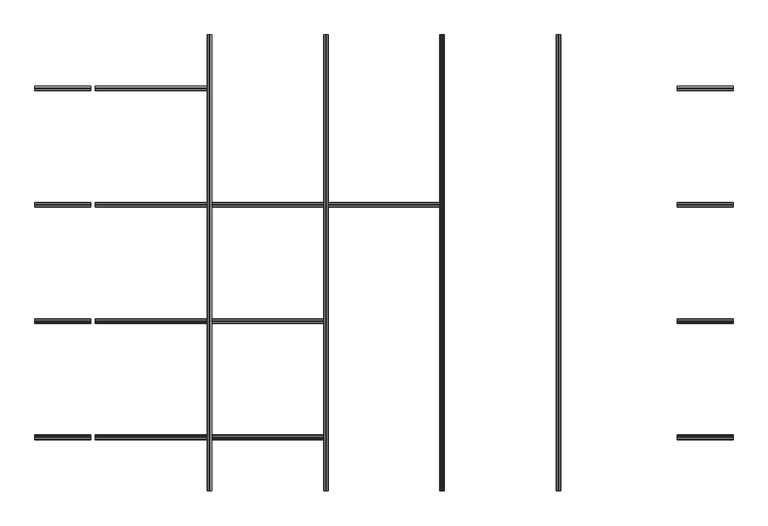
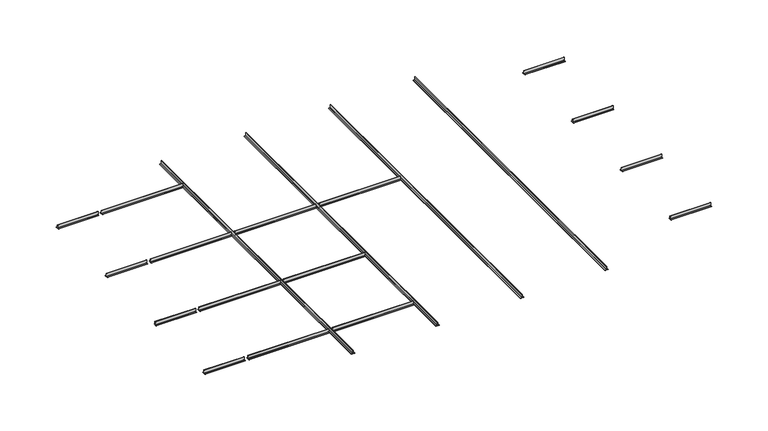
"""IFC4 building model written with IfcOpenShell, lengths in millimetres: proxy geometry, modelo_altus 2.3dm."""

from ifc_helpers import new_model, si_unit, point, frame, frame_2d, origin, place, context, project, spatial, polyline, circle_curve, trimmed, segment, composite_curve, outline, extrude, source, transform, mapped, element, save


def generic_models_bb0a471c(model_context):
    return source(origin(), model_context, "Body", "SweptSolid", [
        extrude(outline(composite_curve([segment(trimmed(circle_curve(frame_2d((1566.7183647, -37.5939559)), 0.8), [point((1566.7183647, -38.3939559))], [point((1565.9183647, -37.5939559))], False, "CARTESIAN"), True, "CONTINUOUS"), segment(polyline([(1565.9183647, -37.5939559), (1565.9183647, -37.1939559)]), True, "CONTINUOUS"), segment(trimmed(circle_curve(frame_2d((1566.7183647, -37.1939559)), 0.8), [point((1565.9183647, -37.1939559))], [point((1566.7183647, -36.3939559))], False, "CARTESIAN"), True, "CONTINUOUS"), segment(polyline([(1566.7183647, -36.3939559), (1576.1183647, -36.518508)]), True, "CONTINUOUS"), segment(trimmed(circle_curve(frame_2d((1576.1183647, -35.718508)), 0.8), [point((1576.1183647, -36.518508))], [point((1576.9183647, -35.718508))], True, "CARTESIAN"), True, "CONTINUOUS"), segment(polyline([(1576.9183647, -35.718508), (1576.8771782, -13.7939559)]), True, "CONTINUOUS"), segment(trimmed(circle_curve(frame_2d((1577.6771782, -13.7939559)), 0.8), [point((1576.8771782, -13.7939559))], [point((1577.6771782, -12.9939559))], False, "CARTESIAN"), True, "CONTINUOUS"), segment(polyline([(1577.6771782, -12.9939559), (1578.1183647, -12.9939559)]), True, "CONTINUOUS"), segment(trimmed(circle_curve(frame_2d((1578.1183647, -13.7939559)), 0.8), [point((1578.1183647, -12.9939559))], [point((1578.9183647, -13.7939559))], False, "CARTESIAN"), True, "CONTINUOUS"), segment(polyline([(1578.9183647, -13.7939559), (1578.9183647, -35.5939559)]), True, "CONTINUOUS"), segment(trimmed(circle_curve(frame_2d((1579.7183647, -35.5939559)), 0.8), [point((1578.9183647, -35.5939559))], [point((1579.7183647, -36.3939559))], True, "CARTESIAN"), True, "CONTINUOUS"), segment(polyline([(1579.7183647, -36.3939559), (1589.1183647, -36.4063657)]), True, "CONTINUOUS"), segment(trimmed(circle_curve(frame_2d((1589.1183647, -37.2063657)), 0.8), [point((1589.1183647, -36.4063657))], [point((1589.9183647, -37.2063657))], False, "CARTESIAN"), True, "CONTINUOUS"), segment(polyline([(1589.9183647, -37.2063657), (1589.9183647, -37.5939559)]), True, "CONTINUOUS"), segment(trimmed(circle_curve(frame_2d((1589.1183647, -37.5939559)), 0.8), [point((1589.9183647, -37.5939559))], [point((1589.1183647, -38.3939559))], False, "CARTESIAN"), True, "CONTINUOUS"), segment(polyline([(1589.1183647, -38.3939559), (1566.7183647, -38.3939559)]), True, "CONTINUOUS")], self_intersect=False)), frame((-16686.5374694, 0.0, 0.0), z_axis=(1.0, 0.0, 0.0), x_axis=(0.0, 1.0, 0.0)), (0.0, 0.0, 1.0), 293.0),
        extrude(outline(composite_curve([segment(trimmed(circle_curve(frame_2d((956.7183647, -37.5939559)), 0.8), [point((956.7183647, -38.3939559))], [point((955.9183647, -37.5939559))], False, "CARTESIAN"), True, "CONTINUOUS"), segment(polyline([(955.9183647, -37.5939559), (955.9183647, -37.1939559)]), True, "CONTINUOUS"), segment(trimmed(circle_curve(frame_2d((956.7183647, -37.1939559)), 0.8), [point((955.9183647, -37.1939559))], [point((956.7183647, -36.3939559))], False, "CARTESIAN"), True, "CONTINUOUS"), segment(polyline([(956.7183647, -36.3939559), (966.1183647, -36.518508)]), True, "CONTINUOUS"), segment(trimmed(circle_curve(frame_2d((966.1183647, -35.718508)), 0.8), [point((966.1183647, -36.518508))], [point((966.9183647, -35.718508))], True, "CARTESIAN"), True, "CONTINUOUS"), segment(polyline([(966.9183647, -35.718508), (966.8771782, -13.7939559)]), True, "CONTINUOUS"), segment(trimmed(circle_curve(frame_2d((967.6771782, -13.7939559)), 0.8), [point((966.8771782, -13.7939559))], [point((967.6771782, -12.9939559))], False, "CARTESIAN"), True, "CONTINUOUS"), segment(polyline([(967.6771782, -12.9939559), (968.1183647, -12.9939559)]), True, "CONTINUOUS"), segment(trimmed(circle_curve(frame_2d((968.1183647, -13.7939559)), 0.8), [point((968.1183647, -12.9939559))], [point((968.9183647, -13.7939559))], False, "CARTESIAN"), True, "CONTINUOUS"), segment(polyline([(968.9183647, -13.7939559), (968.9183647, -35.5939559)]), True, "CONTINUOUS"), segment(trimmed(circle_curve(frame_2d((969.7183647, -35.5939559)), 0.8), [point((968.9183647, -35.5939559))], [point((969.7183647, -36.3939559))], True, "CARTESIAN"), True, "CONTINUOUS"), segment(polyline([(969.7183647, -36.3939559), (979.1183647, -36.4063657)]), True, "CONTINUOUS"), segment(trimmed(circle_curve(frame_2d((979.1183647, -37.2063657)), 0.8), [point((979.1183647, -36.4063657))], [point((979.9183647, -37.2063657))], False, "CARTESIAN"), True, "CONTINUOUS"), segment(polyline([(979.9183647, -37.2063657), (979.9183647, -37.5939559)]), True, "CONTINUOUS"), segment(trimmed(circle_curve(frame_2d((979.1183647, -37.5939559)), 0.8), [point((979.9183647, -37.5939559))], [point((979.1183647, -38.3939559))], False, "CARTESIAN"), True, "CONTINUOUS"), segment(polyline([(979.1183647, -38.3939559), (956.7183647, -38.3939559)]), True, "CONTINUOUS")], self_intersect=False)), frame((-16686.5374694, 0.0, 0.0), z_axis=(1.0, 0.0, 0.0), x_axis=(0.0, 1.0, 0.0)), (0.0, 0.0, 1.0), 293.0),
        extrude(outline(composite_curve([segment(trimmed(circle_curve(frame_2d((346.7183647, -37.5939559)), 0.8), [point((346.7183647, -38.3939559))], [point((345.9183647, -37.5939559))], False, "CARTESIAN"), True, "CONTINUOUS"), segment(polyline([(345.9183647, -37.5939559), (345.9183647, -37.1939559)]), True, "CONTINUOUS"), segment(trimmed(circle_curve(frame_2d((346.7183647, -37.1939559)), 0.8), [point((345.9183647, -37.1939559))], [point((346.7183647, -36.3939559))], False, "CARTESIAN"), True, "CONTINUOUS"), segment(polyline([(346.7183647, -36.3939559), (356.1183647, -36.518508)]), True, "CONTINUOUS"), segment(trimmed(circle_curve(frame_2d((356.1183647, -35.718508)), 0.8), [point((356.1183647, -36.518508))], [point((356.9183647, -35.718508))], True, "CARTESIAN"), True, "CONTINUOUS"), segment(polyline([(356.9183647, -35.718508), (356.8771782, -13.7939559)]), True, "CONTINUOUS"), segment(trimmed(circle_curve(frame_2d((357.6771782, -13.7939559)), 0.8), [point((356.8771782, -13.7939559))], [point((357.6771782, -12.9939559))], False, "CARTESIAN"), True, "CONTINUOUS"), segment(polyline([(357.6771782, -12.9939559), (358.1183647, -12.9939559)]), True, "CONTINUOUS"), segment(trimmed(circle_curve(frame_2d((358.1183647, -13.7939559)), 0.8), [point((358.1183647, -12.9939559))], [point((358.9183647, -13.7939559))], False, "CARTESIAN"), True, "CONTINUOUS"), segment(polyline([(358.9183647, -13.7939559), (358.9183647, -35.5939559)]), True, "CONTINUOUS"), segment(trimmed(circle_curve(frame_2d((359.7183647, -35.5939559)), 0.8), [point((358.9183647, -35.5939559))], [point((359.7183647, -36.3939559))], True, "CARTESIAN"), True, "CONTINUOUS"), segment(polyline([(359.7183647, -36.3939559), (369.1183647, -36.4063657)]), True, "CONTINUOUS"), segment(trimmed(circle_curve(frame_2d((369.1183647, -37.2063657)), 0.8), [point((369.1183647, -36.4063657))], [point((369.9183647, -37.2063657))], False, "CARTESIAN"), True, "CONTINUOUS"), segment(polyline([(369.9183647, -37.2063657), (369.9183647, -37.5939559)]), True, "CONTINUOUS"), segment(trimmed(circle_curve(frame_2d((369.1183647, -37.5939559)), 0.8), [point((369.9183647, -37.5939559))], [point((369.1183647, -38.3939559))], False, "CARTESIAN"), True, "CONTINUOUS"), segment(polyline([(369.1183647, -38.3939559), (346.7183647, -38.3939559)]), True, "CONTINUOUS")], self_intersect=False)), frame((-16686.5374694, 0.0, 0.0), z_axis=(1.0, 0.0, 0.0), x_axis=(0.0, 1.0, 0.0)), (0.0, 0.0, 1.0), 293.0),
        extrude(outline(composite_curve([segment(trimmed(circle_curve(frame_2d((-263.2816353, -37.5939559)), 0.8), [point((-263.2816353, -38.3939559))], [point((-264.0816353, -37.5939559))], False, "CARTESIAN"), True, "CONTINUOUS"), segment(polyline([(-264.0816353, -37.5939559), (-264.0816353, -37.1939559)]), True, "CONTINUOUS"), segment(trimmed(circle_curve(frame_2d((-263.2816353, -37.1939559)), 0.8), [point((-264.0816353, -37.1939559))], [point((-263.2816353, -36.3939559))], False, "CARTESIAN"), True, "CONTINUOUS"), segment(polyline([(-263.2816353, -36.3939559), (-253.8816353, -36.518508)]), True, "CONTINUOUS"), segment(trimmed(circle_curve(frame_2d((-253.8816353, -35.718508)), 0.8), [point((-253.8816353, -36.518508))], [point((-253.0816353, -35.718508))], True, "CARTESIAN"), True, "CONTINUOUS"), segment(polyline([(-253.0816353, -35.718508), (-253.1228218, -13.7939559)]), True, "CONTINUOUS"), segment(trimmed(circle_curve(frame_2d((-252.3228218, -13.7939559)), 0.8), [point((-253.1228218, -13.7939559))], [point((-252.3228218, -12.9939559))], False, "CARTESIAN"), True, "CONTINUOUS"), segment(polyline([(-252.3228218, -12.9939559), (-251.8816353, -12.9939559)]), True, "CONTINUOUS"), segment(trimmed(circle_curve(frame_2d((-251.8816353, -13.7939559)), 0.8), [point((-251.8816353, -12.9939559))], [point((-251.0816353, -13.7939559))], False, "CARTESIAN"), True, "CONTINUOUS"), segment(polyline([(-251.0816353, -13.7939559), (-251.0816353, -35.5939559)]), True, "CONTINUOUS"), segment(trimmed(circle_curve(frame_2d((-250.2816353, -35.5939559)), 0.8), [point((-251.0816353, -35.5939559))], [point((-250.2816353, -36.3939559))], True, "CARTESIAN"), True, "CONTINUOUS"), segment(polyline([(-250.2816353, -36.3939559), (-240.8816353, -36.4063657)]), True, "CONTINUOUS"), segment(trimmed(circle_curve(frame_2d((-240.8816353, -37.2063657)), 0.8), [point((-240.8816353, -36.4063657))], [point((-240.0816353, -37.2063657))], False, "CARTESIAN"), True, "CONTINUOUS"), segment(polyline([(-240.0816353, -37.2063657), (-240.0816353, -37.5939559)]), True, "CONTINUOUS"), segment(trimmed(circle_curve(frame_2d((-240.8816353, -37.5939559)), 0.8), [point((-240.0816353, -37.5939559))], [point((-240.8816353, -38.3939559))], False, "CARTESIAN"), True, "CONTINUOUS"), segment(polyline([(-240.8816353, -38.3939559), (-263.2816353, -38.3939559)]), True, "CONTINUOUS")], self_intersect=False)), frame((-16686.5374694, 0.0, 0.0), z_axis=(1.0, 0.0, 0.0), x_axis=(0.0, 1.0, 0.0)), (0.0, 0.0, 1.0), 293.0),
        extrude(outline(composite_curve([segment(trimmed(circle_curve(frame_2d((1566.7183647, -37.5939559)), 0.8), [point((1566.7183647, -38.3939559))], [point((1565.9183647, -37.5939559))], False, "CARTESIAN"), True, "CONTINUOUS"), segment(polyline([(1565.9183647, -37.5939559), (1565.9183647, -37.1939559)]), True, "CONTINUOUS"), segment(trimmed(circle_curve(frame_2d((1566.7183647, -37.1939559)), 0.8), [point((1565.9183647, -37.1939559))], [point((1566.7183647, -36.3939559))], False, "CARTESIAN"), True, "CONTINUOUS"), segment(polyline([(1566.7183647, -36.3939559), (1576.1183647, -36.518508)]), True, "CONTINUOUS"), segment(trimmed(circle_curve(frame_2d((1576.1183647, -35.718508)), 0.8), [point((1576.1183647, -36.518508))], [point((1576.9183647, -35.718508))], True, "CARTESIAN"), True, "CONTINUOUS"), segment(polyline([(1576.9183647, -35.718508), (1576.8771782, -13.7939559)]), True, "CONTINUOUS"), segment(trimmed(circle_curve(frame_2d((1577.6771782, -13.7939559)), 0.8), [point((1576.8771782, -13.7939559))], [point((1577.6771782, -12.9939559))], False, "CARTESIAN"), True, "CONTINUOUS"), segment(polyline([(1577.6771782, -12.9939559), (1578.1183647, -12.9939559)]), True, "CONTINUOUS"), segment(trimmed(circle_curve(frame_2d((1578.1183647, -13.7939559)), 0.8), [point((1578.1183647, -12.9939559))], [point((1578.9183647, -13.7939559))], False, "CARTESIAN"), True, "CONTINUOUS"), segment(polyline([(1578.9183647, -13.7939559), (1578.9183647, -35.5939559)]), True, "CONTINUOUS"), segment(trimmed(circle_curve(frame_2d((1579.7183647, -35.5939559)), 0.8), [point((1578.9183647, -35.5939559))], [point((1579.7183647, -36.3939559))], True, "CARTESIAN"), True, "CONTINUOUS"), segment(polyline([(1579.7183647, -36.3939559), (1589.1183647, -36.4063657)]), True, "CONTINUOUS"), segment(trimmed(circle_curve(frame_2d((1589.1183647, -37.2063657)), 0.8), [point((1589.1183647, -36.4063657))], [point((1589.9183647, -37.2063657))], False, "CARTESIAN"), True, "CONTINUOUS"), segment(polyline([(1589.9183647, -37.2063657), (1589.9183647, -37.5939559)]), True, "CONTINUOUS"), segment(trimmed(circle_curve(frame_2d((1589.1183647, -37.5939559)), 0.8), [point((1589.9183647, -37.5939559))], [point((1589.1183647, -38.3939559))], False, "CARTESIAN"), True, "CONTINUOUS"), segment(polyline([(1589.1183647, -38.3939559), (1566.7183647, -38.3939559)]), True, "CONTINUOUS")], self_intersect=False)), frame((-13319.5786559, 0.0, 0.0), z_axis=(1.0, 0.0, 0.0), x_axis=(0.0, 1.0, 0.0)), (0.0, 0.0, 1.0), 293.0),
        extrude(outline(composite_curve([segment(trimmed(circle_curve(frame_2d((956.7183647, -37.5939559)), 0.8), [point((956.7183647, -38.3939559))], [point((955.9183647, -37.5939559))], False, "CARTESIAN"), True, "CONTINUOUS"), segment(polyline([(955.9183647, -37.5939559), (955.9183647, -37.1939559)]), True, "CONTINUOUS"), segment(trimmed(circle_curve(frame_2d((956.7183647, -37.1939559)), 0.8), [point((955.9183647, -37.1939559))], [point((956.7183647, -36.3939559))], False, "CARTESIAN"), True, "CONTINUOUS"), segment(polyline([(956.7183647, -36.3939559), (966.1183647, -36.518508)]), True, "CONTINUOUS"), segment(trimmed(circle_curve(frame_2d((966.1183647, -35.718508)), 0.8), [point((966.1183647, -36.518508))], [point((966.9183647, -35.718508))], True, "CARTESIAN"), True, "CONTINUOUS"), segment(polyline([(966.9183647, -35.718508), (966.8771782, -13.7939559)]), True, "CONTINUOUS"), segment(trimmed(circle_curve(frame_2d((967.6771782, -13.7939559)), 0.8), [point((966.8771782, -13.7939559))], [point((967.6771782, -12.9939559))], False, "CARTESIAN"), True, "CONTINUOUS"), segment(polyline([(967.6771782, -12.9939559), (968.1183647, -12.9939559)]), True, "CONTINUOUS"), segment(trimmed(circle_curve(frame_2d((968.1183647, -13.7939559)), 0.8), [point((968.1183647, -12.9939559))], [point((968.9183647, -13.7939559))], False, "CARTESIAN"), True, "CONTINUOUS"), segment(polyline([(968.9183647, -13.7939559), (968.9183647, -35.5939559)]), True, "CONTINUOUS"), segment(trimmed(circle_curve(frame_2d((969.7183647, -35.5939559)), 0.8), [point((968.9183647, -35.5939559))], [point((969.7183647, -36.3939559))], True, "CARTESIAN"), True, "CONTINUOUS"), segment(polyline([(969.7183647, -36.3939559), (979.1183647, -36.4063657)]), True, "CONTINUOUS"), segment(trimmed(circle_curve(frame_2d((979.1183647, -37.2063657)), 0.8), [point((979.1183647, -36.4063657))], [point((979.9183647, -37.2063657))], False, "CARTESIAN"), True, "CONTINUOUS"), segment(polyline([(979.9183647, -37.2063657), (979.9183647, -37.5939559)]), True, "CONTINUOUS"), segment(trimmed(circle_curve(frame_2d((979.1183647, -37.5939559)), 0.8), [point((979.9183647, -37.5939559))], [point((979.1183647, -38.3939559))], False, "CARTESIAN"), True, "CONTINUOUS"), segment(polyline([(979.1183647, -38.3939559), (956.7183647, -38.3939559)]), True, "CONTINUOUS")], self_intersect=False)), frame((-13319.5786559, 0.0, 0.0), z_axis=(1.0, 0.0, 0.0), x_axis=(0.0, 1.0, 0.0)), (0.0, 0.0, 1.0), 293.0),
        extrude(outline(composite_curve([segment(trimmed(circle_curve(frame_2d((346.7183647, -37.5939559)), 0.8), [point((346.7183647, -38.3939559))], [point((345.9183647, -37.5939559))], False, "CARTESIAN"), True, "CONTINUOUS"), segment(polyline([(345.9183647, -37.5939559), (345.9183647, -37.1939559)]), True, "CONTINUOUS"), segment(trimmed(circle_curve(frame_2d((346.7183647, -37.1939559)), 0.8), [point((345.9183647, -37.1939559))], [point((346.7183647, -36.3939559))], False, "CARTESIAN"), True, "CONTINUOUS"), segment(polyline([(346.7183647, -36.3939559), (356.1183647, -36.518508)]), True, "CONTINUOUS"), segment(trimmed(circle_curve(frame_2d((356.1183647, -35.718508)), 0.8), [point((356.1183647, -36.518508))], [point((356.9183647, -35.718508))], True, "CARTESIAN"), True, "CONTINUOUS"), segment(polyline([(356.9183647, -35.718508), (356.8771782, -13.7939559)]), True, "CONTINUOUS"), segment(trimmed(circle_curve(frame_2d((357.6771782, -13.7939559)), 0.8), [point((356.8771782, -13.7939559))], [point((357.6771782, -12.9939559))], False, "CARTESIAN"), True, "CONTINUOUS"), segment(polyline([(357.6771782, -12.9939559), (358.1183647, -12.9939559)]), True, "CONTINUOUS"), segment(trimmed(circle_curve(frame_2d((358.1183647, -13.7939559)), 0.8), [point((358.1183647, -12.9939559))], [point((358.9183647, -13.7939559))], False, "CARTESIAN"), True, "CONTINUOUS"), segment(polyline([(358.9183647, -13.7939559), (358.9183647, -35.5939559)]), True, "CONTINUOUS"), segment(trimmed(circle_curve(frame_2d((359.7183647, -35.5939559)), 0.8), [point((358.9183647, -35.5939559))], [point((359.7183647, -36.3939559))], True, "CARTESIAN"), True, "CONTINUOUS"), segment(polyline([(359.7183647, -36.3939559), (369.1183647, -36.4063657)]), True, "CONTINUOUS"), segment(trimmed(circle_curve(frame_2d((369.1183647, -37.2063657)), 0.8), [point((369.1183647, -36.4063657))], [point((369.9183647, -37.2063657))], False, "CARTESIAN"), True, "CONTINUOUS"), segment(polyline([(369.9183647, -37.2063657), (369.9183647, -37.5939559)]), True, "CONTINUOUS"), segment(trimmed(circle_curve(frame_2d((369.1183647, -37.5939559)), 0.8), [point((369.9183647, -37.5939559))], [point((369.1183647, -38.3939559))], False, "CARTESIAN"), True, "CONTINUOUS"), segment(polyline([(369.1183647, -38.3939559), (346.7183647, -38.3939559)]), True, "CONTINUOUS")], self_intersect=False)), frame((-13319.5786559, 0.0, 0.0), z_axis=(1.0, 0.0, 0.0), x_axis=(0.0, 1.0, 0.0)), (0.0, 0.0, 1.0), 293.0),
        extrude(outline(composite_curve([segment(trimmed(circle_curve(frame_2d((-263.2816353, -37.5939559)), 0.8), [point((-263.2816353, -38.3939559))], [point((-264.0816353, -37.5939559))], False, "CARTESIAN"), True, "CONTINUOUS"), segment(polyline([(-264.0816353, -37.5939559), (-264.0816353, -37.1939559)]), True, "CONTINUOUS"), segment(trimmed(circle_curve(frame_2d((-263.2816353, -37.1939559)), 0.8), [point((-264.0816353, -37.1939559))], [point((-263.2816353, -36.3939559))], False, "CARTESIAN"), True, "CONTINUOUS"), segment(polyline([(-263.2816353, -36.3939559), (-253.8816353, -36.518508)]), True, "CONTINUOUS"), segment(trimmed(circle_curve(frame_2d((-253.8816353, -35.718508)), 0.8), [point((-253.8816353, -36.518508))], [point((-253.0816353, -35.718508))], True, "CARTESIAN"), True, "CONTINUOUS"), segment(polyline([(-253.0816353, -35.718508), (-253.1228218, -13.7939559)]), True, "CONTINUOUS"), segment(trimmed(circle_curve(frame_2d((-252.3228218, -13.7939559)), 0.8), [point((-253.1228218, -13.7939559))], [point((-252.3228218, -12.9939559))], False, "CARTESIAN"), True, "CONTINUOUS"), segment(polyline([(-252.3228218, -12.9939559), (-251.8816353, -12.9939559)]), True, "CONTINUOUS"), segment(trimmed(circle_curve(frame_2d((-251.8816353, -13.7939559)), 0.8), [point((-251.8816353, -12.9939559))], [point((-251.0816353, -13.7939559))], False, "CARTESIAN"), True, "CONTINUOUS"), segment(polyline([(-251.0816353, -13.7939559), (-251.0816353, -35.5939559)]), True, "CONTINUOUS"), segment(trimmed(circle_curve(frame_2d((-250.2816353, -35.5939559)), 0.8), [point((-251.0816353, -35.5939559))], [point((-250.2816353, -36.3939559))], True, "CARTESIAN"), True, "CONTINUOUS"), segment(polyline([(-250.2816353, -36.3939559), (-240.8816353, -36.4063657)]), True, "CONTINUOUS"), segment(trimmed(circle_curve(frame_2d((-240.8816353, -37.2063657)), 0.8), [point((-240.8816353, -36.4063657))], [point((-240.0816353, -37.2063657))], False, "CARTESIAN"), True, "CONTINUOUS"), segment(polyline([(-240.0816353, -37.2063657), (-240.0816353, -37.5939559)]), True, "CONTINUOUS"), segment(trimmed(circle_curve(frame_2d((-240.8816353, -37.5939559)), 0.8), [point((-240.0816353, -37.5939559))], [point((-240.8816353, -38.3939559))], False, "CARTESIAN"), True, "CONTINUOUS"), segment(polyline([(-240.8816353, -38.3939559), (-263.2816353, -38.3939559)]), True, "CONTINUOUS")], self_intersect=False)), frame((-13319.5786559, 0.0, 0.0), z_axis=(1.0, 0.0, 0.0), x_axis=(0.0, 1.0, 0.0)), (0.0, 0.0, 1.0), 293.0),
        extrude(outline(composite_curve([segment(trimmed(circle_curve(frame_2d((-37.5843423, -13930.3786559)), 0.8), [point((-38.3843423, -13930.3786559))], [point((-37.5843423, -13929.5786559))], False, "CARTESIAN"), True, "CONTINUOUS"), segment(polyline([(-37.5843423, -13929.5786559), (-37.1843423, -13929.5786559)]), True, "CONTINUOUS"), segment(trimmed(circle_curve(frame_2d((-37.1843423, -13930.3786559)), 0.8), [point((-37.1843423, -13929.5786559))], [point((-36.3843423, -13930.3786559))], False, "CARTESIAN"), True, "CONTINUOUS"), segment(polyline([(-36.3843423, -13930.3786559), (-36.5088944, -13939.7786559)]), True, "CONTINUOUS"), segment(trimmed(circle_curve(frame_2d((-35.7088944, -13939.7786559)), 0.8), [point((-36.5088944, -13939.7786559))], [point((-35.7088944, -13940.5786559))], True, "CARTESIAN"), True, "CONTINUOUS"), segment(polyline([(-35.7088944, -13940.5786559), (-13.7843423, -13940.5374694)]), True, "CONTINUOUS"), segment(trimmed(circle_curve(frame_2d((-13.7843423, -13941.3374694)), 0.8), [point((-13.7843423, -13940.5374694))], [point((-12.9843423, -13941.3374694))], False, "CARTESIAN"), True, "CONTINUOUS"), segment(polyline([(-12.9843423, -13941.3374694), (-12.9843423, -13941.7786559)]), True, "CONTINUOUS"), segment(trimmed(circle_curve(frame_2d((-13.7843423, -13941.7786559)), 0.8), [point((-12.9843423, -13941.7786559))], [point((-13.7843423, -13942.5786559))], False, "CARTESIAN"), True, "CONTINUOUS"), segment(polyline([(-13.7843423, -13942.5786559), (-35.5843423, -13942.5786559)]), True, "CONTINUOUS"), segment(trimmed(circle_curve(frame_2d((-35.5843423, -13943.3786559)), 0.8), [point((-35.5843423, -13942.5786559))], [point((-36.3843423, -13943.3786559))], True, "CARTESIAN"), True, "CONTINUOUS"), segment(polyline([(-36.3843423, -13943.3786559), (-36.3967521, -13952.7786559)]), True, "CONTINUOUS"), segment(trimmed(circle_curve(frame_2d((-37.1967521, -13952.7786559)), 0.8), [point((-36.3967521, -13952.7786559))], [point((-37.1967521, -13953.5786559))], False, "CARTESIAN"), True, "CONTINUOUS"), segment(polyline([(-37.1967521, -13953.5786559), (-37.5843423, -13953.5786559)]), True, "CONTINUOUS"), segment(trimmed(circle_curve(frame_2d((-37.5843423, -13952.7786559)), 0.8), [point((-37.5843423, -13953.5786559))], [point((-38.3843423, -13952.7786559))], False, "CARTESIAN"), True, "CONTINUOUS"), segment(polyline([(-38.3843423, -13952.7786559), (-38.3843423, -13930.3786559)]), True, "CONTINUOUS")], self_intersect=False)), frame((0.0, -533.7057324, 0.0), z_axis=(0.0, 1.0, 0.0), x_axis=(0.0, 0.0, 1.0)), (0.0, 0.0, 1.0), 2393.2481942),
        extrude(outline(composite_curve([segment(trimmed(circle_curve(frame_2d((-263.2816353, -37.5843423)), 0.8), [point((-263.2816353, -38.3843423))], [point((-264.0816353, -37.5843423))], False, "CARTESIAN"), True, "CONTINUOUS"), segment(polyline([(-264.0816353, -37.5843423), (-264.0816353, -37.1843423)]), True, "CONTINUOUS"), segment(trimmed(circle_curve(frame_2d((-263.2816353, -37.1843423)), 0.8), [point((-264.0816353, -37.1843423))], [point((-263.2816353, -36.3843423))], False, "CARTESIAN"), True, "CONTINUOUS"), segment(polyline([(-263.2816353, -36.3843423), (-253.8816353, -36.5088944)]), True, "CONTINUOUS"), segment(trimmed(circle_curve(frame_2d((-253.8816353, -35.7088944)), 0.8), [point((-253.8816353, -36.5088944))], [point((-253.0816353, -35.7088944))], True, "CARTESIAN"), True, "CONTINUOUS"), segment(polyline([(-253.0816353, -35.7088944), (-253.1228217, -13.7843423)]), True, "CONTINUOUS"), segment(trimmed(circle_curve(frame_2d((-252.3228217, -13.7843423)), 0.8), [point((-253.1228217, -13.7843423))], [point((-252.3228217, -12.9843423))], False, "CARTESIAN"), True, "CONTINUOUS"), segment(polyline([(-252.3228217, -12.9843423), (-251.8816353, -12.9843423)]), True, "CONTINUOUS"), segment(trimmed(circle_curve(frame_2d((-251.8816353, -13.7843423)), 0.8), [point((-251.8816353, -12.9843423))], [point((-251.0816353, -13.7843423))], False, "CARTESIAN"), True, "CONTINUOUS"), segment(polyline([(-251.0816353, -13.7843423), (-251.0816353, -35.5843423)]), True, "CONTINUOUS"), segment(trimmed(circle_curve(frame_2d((-250.2816353, -35.5843423)), 0.8), [point((-251.0816353, -35.5843423))], [point((-250.2816353, -36.3843423))], True, "CARTESIAN"), True, "CONTINUOUS"), segment(polyline([(-250.2816353, -36.3843423), (-240.8816353, -36.3967521)]), True, "CONTINUOUS"), segment(trimmed(circle_curve(frame_2d((-240.8816353, -37.1967521)), 0.8), [point((-240.8816353, -36.3967521))], [point((-240.0816353, -37.1967521))], False, "CARTESIAN"), True, "CONTINUOUS"), segment(polyline([(-240.0816353, -37.1967521), (-240.0816353, -37.5843423)]), True, "CONTINUOUS"), segment(trimmed(circle_curve(frame_2d((-240.8816353, -37.5843423)), 0.8), [point((-240.0816353, -37.5843423))], [point((-240.8816353, -38.3843423))], False, "CARTESIAN"), True, "CONTINUOUS"), segment(polyline([(-240.8816353, -38.3843423), (-263.2816353, -38.3843423)]), True, "CONTINUOUS")], self_intersect=False)), frame((-16369.5374694, 0.0, 0.0), z_axis=(1.0, 0.0, 0.0), x_axis=(0.0, 1.0, 0.0)), (0.0, 0.0, 1.0), 586.0),
        extrude(outline(composite_curve([segment(trimmed(circle_curve(frame_2d((346.7183647, -37.5843423)), 0.8), [point((346.7183647, -38.3843423))], [point((345.9183647, -37.5843423))], False, "CARTESIAN"), True, "CONTINUOUS"), segment(polyline([(345.9183647, -37.5843423), (345.9183647, -37.1843423)]), True, "CONTINUOUS"), segment(trimmed(circle_curve(frame_2d((346.7183647, -37.1843423)), 0.8), [point((345.9183647, -37.1843423))], [point((346.7183647, -36.3843423))], False, "CARTESIAN"), True, "CONTINUOUS"), segment(polyline([(346.7183647, -36.3843423), (356.1183647, -36.5088944)]), True, "CONTINUOUS"), segment(trimmed(circle_curve(frame_2d((356.1183647, -35.7088944)), 0.8), [point((356.1183647, -36.5088944))], [point((356.9183647, -35.7088944))], True, "CARTESIAN"), True, "CONTINUOUS"), segment(polyline([(356.9183647, -35.7088944), (356.8771783, -13.7843423)]), True, "CONTINUOUS"), segment(trimmed(circle_curve(frame_2d((357.6771783, -13.7843423)), 0.8), [point((356.8771783, -13.7843423))], [point((357.6771783, -12.9843423))], False, "CARTESIAN"), True, "CONTINUOUS"), segment(polyline([(357.6771783, -12.9843423), (358.1183647, -12.9843423)]), True, "CONTINUOUS"), segment(trimmed(circle_curve(frame_2d((358.1183647, -13.7843423)), 0.8), [point((358.1183647, -12.9843423))], [point((358.9183647, -13.7843423))], False, "CARTESIAN"), True, "CONTINUOUS"), segment(polyline([(358.9183647, -13.7843423), (358.9183647, -35.5843423)]), True, "CONTINUOUS"), segment(trimmed(circle_curve(frame_2d((359.7183647, -35.5843423)), 0.8), [point((358.9183647, -35.5843423))], [point((359.7183647, -36.3843423))], True, "CARTESIAN"), True, "CONTINUOUS"), segment(polyline([(359.7183647, -36.3843423), (369.1183647, -36.3967521)]), True, "CONTINUOUS"), segment(trimmed(circle_curve(frame_2d((369.1183647, -37.1967521)), 0.8), [point((369.1183647, -36.3967521))], [point((369.9183647, -37.1967521))], False, "CARTESIAN"), True, "CONTINUOUS"), segment(polyline([(369.9183647, -37.1967521), (369.9183647, -37.5843423)]), True, "CONTINUOUS"), segment(trimmed(circle_curve(frame_2d((369.1183647, -37.5843423)), 0.8), [point((369.9183647, -37.5843423))], [point((369.1183647, -38.3843423))], False, "CARTESIAN"), True, "CONTINUOUS"), segment(polyline([(369.1183647, -38.3843423), (346.7183647, -38.3843423)]), True, "CONTINUOUS")], self_intersect=False)), frame((-16369.5374694, 0.0, 0.0), z_axis=(1.0, 0.0, 0.0), x_axis=(0.0, 1.0, 0.0)), (0.0, 0.0, 1.0), 586.0),
        extrude(outline(composite_curve([segment(trimmed(circle_curve(frame_2d((956.7183647, -37.5843423)), 0.8), [point((956.7183647, -38.3843423))], [point((955.9183647, -37.5843423))], False, "CARTESIAN"), True, "CONTINUOUS"), segment(polyline([(955.9183647, -37.5843423), (955.9183647, -37.1843423)]), True, "CONTINUOUS"), segment(trimmed(circle_curve(frame_2d((956.7183647, -37.1843423)), 0.8), [point((955.9183647, -37.1843423))], [point((956.7183647, -36.3843423))], False, "CARTESIAN"), True, "CONTINUOUS"), segment(polyline([(956.7183647, -36.3843423), (966.1183647, -36.5088944)]), True, "CONTINUOUS"), segment(trimmed(circle_curve(frame_2d((966.1183647, -35.7088944)), 0.8), [point((966.1183647, -36.5088944))], [point((966.9183647, -35.7088944))], True, "CARTESIAN"), True, "CONTINUOUS"), segment(polyline([(966.9183647, -35.7088944), (966.8771783, -13.7843423)]), True, "CONTINUOUS"), segment(trimmed(circle_curve(frame_2d((967.6771783, -13.7843423)), 0.8), [point((966.8771783, -13.7843423))], [point((967.6771783, -12.9843423))], False, "CARTESIAN"), True, "CONTINUOUS"), segment(polyline([(967.6771783, -12.9843423), (968.1183647, -12.9843423)]), True, "CONTINUOUS"), segment(trimmed(circle_curve(frame_2d((968.1183647, -13.7843423)), 0.8), [point((968.1183647, -12.9843423))], [point((968.9183647, -13.7843423))], False, "CARTESIAN"), True, "CONTINUOUS"), segment(polyline([(968.9183647, -13.7843423), (968.9183647, -35.5843423)]), True, "CONTINUOUS"), segment(trimmed(circle_curve(frame_2d((969.7183647, -35.5843423)), 0.8), [point((968.9183647, -35.5843423))], [point((969.7183647, -36.3843423))], True, "CARTESIAN"), True, "CONTINUOUS"), segment(polyline([(969.7183647, -36.3843423), (979.1183647, -36.3967521)]), True, "CONTINUOUS"), segment(trimmed(circle_curve(frame_2d((979.1183647, -37.1967521)), 0.8), [point((979.1183647, -36.3967521))], [point((979.9183647, -37.1967521))], False, "CARTESIAN"), True, "CONTINUOUS"), segment(polyline([(979.9183647, -37.1967521), (979.9183647, -37.5843423)]), True, "CONTINUOUS"), segment(trimmed(circle_curve(frame_2d((979.1183647, -37.5843423)), 0.8), [point((979.9183647, -37.5843423))], [point((979.1183647, -38.3843423))], False, "CARTESIAN"), True, "CONTINUOUS"), segment(polyline([(979.1183647, -38.3843423), (956.7183647, -38.3843423)]), True, "CONTINUOUS")], self_intersect=False)), frame((-16369.5374694, 0.0, 0.0), z_axis=(1.0, 0.0, 0.0), x_axis=(0.0, 1.0, 0.0)), (0.0, 0.0, 1.0), 586.0),
        extrude(outline(composite_curve([segment(trimmed(circle_curve(frame_2d((1566.7183647, -37.5843423)), 0.8), [point((1566.7183647, -38.3843423))], [point((1565.9183647, -37.5843423))], False, "CARTESIAN"), True, "CONTINUOUS"), segment(polyline([(1565.9183647, -37.5843423), (1565.9183647, -37.1843423)]), True, "CONTINUOUS"), segment(trimmed(circle_curve(frame_2d((1566.7183647, -37.1843423)), 0.8), [point((1565.9183647, -37.1843423))], [point((1566.7183647, -36.3843423))], False, "CARTESIAN"), True, "CONTINUOUS"), segment(polyline([(1566.7183647, -36.3843423), (1576.1183647, -36.5088944)]), True, "CONTINUOUS"), segment(trimmed(circle_curve(frame_2d((1576.1183647, -35.7088944)), 0.8), [point((1576.1183647, -36.5088944))], [point((1576.9183647, -35.7088944))], True, "CARTESIAN"), True, "CONTINUOUS"), segment(polyline([(1576.9183647, -35.7088944), (1576.8771783, -13.7843423)]), True, "CONTINUOUS"), segment(trimmed(circle_curve(frame_2d((1577.6771783, -13.7843423)), 0.8), [point((1576.8771783, -13.7843423))], [point((1577.6771783, -12.9843423))], False, "CARTESIAN"), True, "CONTINUOUS"), segment(polyline([(1577.6771783, -12.9843423), (1578.1183647, -12.9843423)]), True, "CONTINUOUS"), segment(trimmed(circle_curve(frame_2d((1578.1183647, -13.7843423)), 0.8), [point((1578.1183647, -12.9843423))], [point((1578.9183647, -13.7843423))], False, "CARTESIAN"), True, "CONTINUOUS"), segment(polyline([(1578.9183647, -13.7843423), (1578.9183647, -35.5843423)]), True, "CONTINUOUS"), segment(trimmed(circle_curve(frame_2d((1579.7183647, -35.5843423)), 0.8), [point((1578.9183647, -35.5843423))], [point((1579.7183647, -36.3843423))], True, "CARTESIAN"), True, "CONTINUOUS"), segment(polyline([(1579.7183647, -36.3843423), (1589.1183647, -36.3967521)]), True, "CONTINUOUS"), segment(trimmed(circle_curve(frame_2d((1589.1183647, -37.1967521)), 0.8), [point((1589.1183647, -36.3967521))], [point((1589.9183647, -37.1967521))], False, "CARTESIAN"), True, "CONTINUOUS"), segment(polyline([(1589.9183647, -37.1967521), (1589.9183647, -37.5843423)]), True, "CONTINUOUS"), segment(trimmed(circle_curve(frame_2d((1589.1183647, -37.5843423)), 0.8), [point((1589.9183647, -37.5843423))], [point((1589.1183647, -38.3843423))], False, "CARTESIAN"), True, "CONTINUOUS"), segment(polyline([(1589.1183647, -38.3843423), (1566.7183647, -38.3843423)]), True, "CONTINUOUS")], self_intersect=False)), frame((-16369.5374694, 0.0, 0.0), z_axis=(1.0, 0.0, 0.0), x_axis=(0.0, 1.0, 0.0)), (0.0, 0.0, 1.0), 586.0),
        extrude(outline(composite_curve([segment(trimmed(circle_curve(frame_2d((-37.5843423, -15760.3786559)), 0.8), [point((-38.3843423, -15760.3786559))], [point((-37.5843423, -15759.5786559))], False, "CARTESIAN"), True, "CONTINUOUS"), segment(polyline([(-37.5843423, -15759.5786559), (-37.1843423, -15759.5786559)]), True, "CONTINUOUS"), segment(trimmed(circle_curve(frame_2d((-37.1843423, -15760.3786559)), 0.8), [point((-37.1843423, -15759.5786559))], [point((-36.3843423, -15760.3786559))], False, "CARTESIAN"), True, "CONTINUOUS"), segment(polyline([(-36.3843423, -15760.3786559), (-36.5088944, -15769.7786559)]), True, "CONTINUOUS"), segment(trimmed(circle_curve(frame_2d((-35.7088944, -15769.7786559)), 0.8), [point((-36.5088944, -15769.7786559))], [point((-35.7088944, -15770.5786559))], True, "CARTESIAN"), True, "CONTINUOUS"), segment(polyline([(-35.7088944, -15770.5786559), (-13.7843423, -15770.5374694)]), True, "CONTINUOUS"), segment(trimmed(circle_curve(frame_2d((-13.7843423, -15771.3374694)), 0.8), [point((-13.7843423, -15770.5374694))], [point((-12.9843423, -15771.3374694))], False, "CARTESIAN"), True, "CONTINUOUS"), segment(polyline([(-12.9843423, -15771.3374694), (-12.9843423, -15771.7786559)]), True, "CONTINUOUS"), segment(trimmed(circle_curve(frame_2d((-13.7843423, -15771.7786559)), 0.8), [point((-12.9843423, -15771.7786559))], [point((-13.7843423, -15772.5786559))], False, "CARTESIAN"), True, "CONTINUOUS"), segment(polyline([(-13.7843423, -15772.5786559), (-35.5843423, -15772.5786559)]), True, "CONTINUOUS"), segment(trimmed(circle_curve(frame_2d((-35.5843423, -15773.3786559)), 0.8), [point((-35.5843423, -15772.5786559))], [point((-36.3843423, -15773.3786559))], True, "CARTESIAN"), True, "CONTINUOUS"), segment(polyline([(-36.3843423, -15773.3786559), (-36.3967521, -15782.7786559)]), True, "CONTINUOUS"), segment(trimmed(circle_curve(frame_2d((-37.1967521, -15782.7786559)), 0.8), [point((-36.3967521, -15782.7786559))], [point((-37.1967521, -15783.5786559))], False, "CARTESIAN"), True, "CONTINUOUS"), segment(polyline([(-37.1967521, -15783.5786559), (-37.5843423, -15783.5786559)]), True, "CONTINUOUS"), segment(trimmed(circle_curve(frame_2d((-37.5843423, -15782.7786559)), 0.8), [point((-37.5843423, -15783.5786559))], [point((-38.3843423, -15782.7786559))], False, "CARTESIAN"), True, "CONTINUOUS"), segment(polyline([(-38.3843423, -15782.7786559), (-38.3843423, -15760.3786559)]), True, "CONTINUOUS")], self_intersect=False)), frame((0.0, -533.7057324, 0.0), z_axis=(0.0, 1.0, 0.0), x_axis=(0.0, 0.0, 1.0)), (0.0, 0.0, 1.0), 2393.2481942),
        extrude(outline(composite_curve([segment(polyline([(0.0, 0.0), (0.0, 22.4)]), True, "CONTINUOUS"), segment(trimmed(circle_curve(frame_2d((0.8, 22.4)), 0.8), [point((0.0, 22.4))], [point((0.8, 23.2))], False, "CARTESIAN"), True, "CONTINUOUS"), segment(polyline([(0.8, 23.2), (1.1875902, 23.2)]), True, "CONTINUOUS"), segment(trimmed(circle_curve(frame_2d((1.1875902, 22.4)), 0.8), [point((1.1875902, 23.2))], [point((1.9875902, 22.4))], False, "CARTESIAN"), True, "CONTINUOUS"), segment(polyline([(1.9875902, 22.4), (2.0, 13.0)]), True, "CONTINUOUS"), segment(trimmed(circle_curve(frame_2d((2.8, 13.0)), 0.8), [point((2.0, 13.0))], [point((2.8, 12.2))], True, "CARTESIAN"), True, "CONTINUOUS"), segment(polyline([(2.8, 12.2), (24.6, 12.2)]), True, "CONTINUOUS"), segment(trimmed(circle_curve(frame_2d((24.6, 11.4)), 0.8), [point((24.6, 12.2))], [point((25.4, 11.4))], False, "CARTESIAN"), True, "CONTINUOUS"), segment(polyline([(25.4, 11.4), (25.4, 10.9588135)]), True, "CONTINUOUS"), segment(trimmed(circle_curve(frame_2d((24.6, 10.9588135)), 0.8), [point((25.4, 10.9588135))], [point((24.6, 10.1588135))], False, "CARTESIAN"), True, "CONTINUOUS"), segment(polyline([(24.6, 10.1588135), (2.675448, 10.2)]), True, "CONTINUOUS"), segment(trimmed(circle_curve(frame_2d((2.675448, 9.4)), 0.8), [point((2.675448, 10.2))], [point((1.875448, 9.4))], True, "CARTESIAN"), True, "CONTINUOUS"), segment(polyline([(1.875448, 9.4), (2.0, 0.0)]), True, "CONTINUOUS"), segment(trimmed(circle_curve(frame_2d((1.2, 0.0)), 0.8), [point((2.0, 0.0))], [point((1.2, -0.8))], False, "CARTESIAN"), True, "CONTINUOUS"), segment(polyline([(1.2, -0.8), (0.8, -0.8)]), True, "CONTINUOUS"), segment(trimmed(circle_curve(frame_2d((0.8, 0.0)), 0.8), [point((0.8, -0.8))], [point((0.0, 0.0))], False, "CARTESIAN"), True, "CONTINUOUS")], self_intersect=False)), frame((-15150.3786559, 1859.5424582, -38.3879518), z_axis=(0.0, -0.9999999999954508, 3.0163753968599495e-06), x_axis=(0.0, 3.0163753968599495e-06, 0.9999999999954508)), (0.0, 0.0, 1.0), 2393.2481777),
        extrude(outline(composite_curve([segment(polyline([(0.0, 0.0), (0.0, 22.4)]), True, "CONTINUOUS"), segment(trimmed(circle_curve(frame_2d((0.8, 22.4)), 0.8), [point((0.0, 22.4))], [point((0.8, 23.2))], False, "CARTESIAN"), True, "CONTINUOUS"), segment(polyline([(0.8, 23.2), (1.1875902, 23.2)]), True, "CONTINUOUS"), segment(trimmed(circle_curve(frame_2d((1.1875902, 22.4)), 0.8), [point((1.1875902, 23.2))], [point((1.9875902, 22.4))], False, "CARTESIAN"), True, "CONTINUOUS"), segment(polyline([(1.9875902, 22.4), (2.0, 13.0)]), True, "CONTINUOUS"), segment(trimmed(circle_curve(frame_2d((2.8, 13.0)), 0.8), [point((2.0, 13.0))], [point((2.8, 12.2))], True, "CARTESIAN"), True, "CONTINUOUS"), segment(polyline([(2.8, 12.2), (24.6, 12.2)]), True, "CONTINUOUS"), segment(trimmed(circle_curve(frame_2d((24.6, 11.4)), 0.8), [point((24.6, 12.2))], [point((25.4, 11.4))], False, "CARTESIAN"), True, "CONTINUOUS"), segment(polyline([(25.4, 11.4), (25.4, 10.9588135)]), True, "CONTINUOUS"), segment(trimmed(circle_curve(frame_2d((24.6, 10.9588135)), 0.8), [point((25.4, 10.9588135))], [point((24.6, 10.1588135))], False, "CARTESIAN"), True, "CONTINUOUS"), segment(polyline([(24.6, 10.1588135), (2.675448, 10.2)]), True, "CONTINUOUS"), segment(trimmed(circle_curve(frame_2d((2.675448, 9.4)), 0.8), [point((2.675448, 10.2))], [point((1.875448, 9.4))], True, "CARTESIAN"), True, "CONTINUOUS"), segment(polyline([(1.875448, 9.4), (2.0, 0.0)]), True, "CONTINUOUS"), segment(trimmed(circle_curve(frame_2d((1.2, 0.0)), 0.8), [point((2.0, 0.0))], [point((1.2, -0.8))], False, "CARTESIAN"), True, "CONTINUOUS"), segment(polyline([(1.2, -0.8), (0.8, -0.8)]), True, "CONTINUOUS"), segment(trimmed(circle_curve(frame_2d((0.8, 0.0)), 0.8), [point((0.8, -0.8))], [point((0.0, 0.0))], False, "CARTESIAN"), True, "CONTINUOUS")], self_intersect=False)), frame((-14540.3786559, 1859.5424582, -38.3879518), z_axis=(0.0, -0.9999999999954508, 3.0163753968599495e-06), x_axis=(0.0, 3.0163753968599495e-06, 0.9999999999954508)), (0.0, 0.0, 1.0), 2393.2481777),
        extrude(outline(composite_curve([segment(trimmed(circle_curve(frame_2d((956.7183647, -37.5843423)), 0.8), [point((956.7183647, -38.3843423))], [point((955.9183647, -37.5843423))], False, "CARTESIAN"), True, "CONTINUOUS"), segment(polyline([(955.9183647, -37.5843423), (955.9183647, -37.1843423)]), True, "CONTINUOUS"), segment(trimmed(circle_curve(frame_2d((956.7183647, -37.1843423)), 0.8), [point((955.9183647, -37.1843423))], [point((956.7183647, -36.3843423))], False, "CARTESIAN"), True, "CONTINUOUS"), segment(polyline([(956.7183647, -36.3843423), (966.1183647, -36.5088944)]), True, "CONTINUOUS"), segment(trimmed(circle_curve(frame_2d((966.1183647, -35.7088944)), 0.8), [point((966.1183647, -36.5088944))], [point((966.9183647, -35.7088944))], True, "CARTESIAN"), True, "CONTINUOUS"), segment(polyline([(966.9183647, -35.7088944), (966.8771783, -13.7843423)]), True, "CONTINUOUS"), segment(trimmed(circle_curve(frame_2d((967.6771783, -13.7843423)), 0.8), [point((966.8771783, -13.7843423))], [point((967.6771783, -12.9843423))], False, "CARTESIAN"), True, "CONTINUOUS"), segment(polyline([(967.6771783, -12.9843423), (968.1183647, -12.9843423)]), True, "CONTINUOUS"), segment(trimmed(circle_curve(frame_2d((968.1183647, -13.7843423)), 0.8), [point((968.1183647, -12.9843423))], [point((968.9183647, -13.7843423))], False, "CARTESIAN"), True, "CONTINUOUS"), segment(polyline([(968.9183647, -13.7843423), (968.9183647, -35.5843423)]), True, "CONTINUOUS"), segment(trimmed(circle_curve(frame_2d((969.7183647, -35.5843423)), 0.8), [point((968.9183647, -35.5843423))], [point((969.7183647, -36.3843423))], True, "CARTESIAN"), True, "CONTINUOUS"), segment(polyline([(969.7183647, -36.3843423), (979.1183647, -36.3967521)]), True, "CONTINUOUS"), segment(trimmed(circle_curve(frame_2d((979.1183647, -37.1967521)), 0.8), [point((979.1183647, -36.3967521))], [point((979.9183647, -37.1967521))], False, "CARTESIAN"), True, "CONTINUOUS"), segment(polyline([(979.9183647, -37.1967521), (979.9183647, -37.5843423)]), True, "CONTINUOUS"), segment(trimmed(circle_curve(frame_2d((979.1183647, -37.5843423)), 0.8), [point((979.9183647, -37.5843423))], [point((979.1183647, -38.3843423))], False, "CARTESIAN"), True, "CONTINUOUS"), segment(polyline([(979.1183647, -38.3843423), (956.7183647, -38.3843423)]), True, "CONTINUOUS")], self_intersect=False)), frame((-15149.5786559, 0.0, 0.0), z_axis=(1.0, 0.0, 0.0), x_axis=(0.0, 1.0, 0.0)), (0.0, 0.0, 1.0), 586.0),
        extrude(outline(composite_curve([segment(trimmed(circle_curve(frame_2d((-263.2816353, -37.5843423)), 0.8), [point((-263.2816353, -38.3843423))], [point((-264.0816353, -37.5843423))], False, "CARTESIAN"), True, "CONTINUOUS"), segment(polyline([(-264.0816353, -37.5843423), (-264.0816353, -37.1843423)]), True, "CONTINUOUS"), segment(trimmed(circle_curve(frame_2d((-263.2816353, -37.1843423)), 0.8), [point((-264.0816353, -37.1843423))], [point((-263.2816353, -36.3843423))], False, "CARTESIAN"), True, "CONTINUOUS"), segment(polyline([(-263.2816353, -36.3843423), (-253.8816353, -36.5088944)]), True, "CONTINUOUS"), segment(trimmed(circle_curve(frame_2d((-253.8816353, -35.7088944)), 0.8), [point((-253.8816353, -36.5088944))], [point((-253.0816353, -35.7088944))], True, "CARTESIAN"), True, "CONTINUOUS"), segment(polyline([(-253.0816353, -35.7088944), (-253.1228217, -13.7843423)]), True, "CONTINUOUS"), segment(trimmed(circle_curve(frame_2d((-252.3228217, -13.7843423)), 0.8), [point((-253.1228217, -13.7843423))], [point((-252.3228217, -12.9843423))], False, "CARTESIAN"), True, "CONTINUOUS"), segment(polyline([(-252.3228217, -12.9843423), (-251.8816353, -12.9843423)]), True, "CONTINUOUS"), segment(trimmed(circle_curve(frame_2d((-251.8816353, -13.7843423)), 0.8), [point((-251.8816353, -12.9843423))], [point((-251.0816353, -13.7843423))], False, "CARTESIAN"), True, "CONTINUOUS"), segment(polyline([(-251.0816353, -13.7843423), (-251.0816353, -35.5843423)]), True, "CONTINUOUS"), segment(trimmed(circle_curve(frame_2d((-250.2816353, -35.5843423)), 0.8), [point((-251.0816353, -35.5843423))], [point((-250.2816353, -36.3843423))], True, "CARTESIAN"), True, "CONTINUOUS"), segment(polyline([(-250.2816353, -36.3843423), (-240.8816353, -36.3967521)]), True, "CONTINUOUS"), segment(trimmed(circle_curve(frame_2d((-240.8816353, -37.1967521)), 0.8), [point((-240.8816353, -36.3967521))], [point((-240.0816353, -37.1967521))], False, "CARTESIAN"), True, "CONTINUOUS"), segment(polyline([(-240.0816353, -37.1967521), (-240.0816353, -37.5843423)]), True, "CONTINUOUS"), segment(trimmed(circle_curve(frame_2d((-240.8816353, -37.5843423)), 0.8), [point((-240.0816353, -37.5843423))], [point((-240.8816353, -38.3843423))], False, "CARTESIAN"), True, "CONTINUOUS"), segment(polyline([(-240.8816353, -38.3843423), (-263.2816353, -38.3843423)]), True, "CONTINUOUS")], self_intersect=False)), frame((-15759.5786559, 0.0, 0.0), z_axis=(1.0, 0.0, 0.0), x_axis=(0.0, 1.0, 0.0)), (0.0, 0.0, 1.0), 586.0),
        extrude(outline(composite_curve([segment(trimmed(circle_curve(frame_2d((346.7183647, -37.5843423)), 0.8), [point((346.7183647, -38.3843423))], [point((345.9183647, -37.5843423))], False, "CARTESIAN"), True, "CONTINUOUS"), segment(polyline([(345.9183647, -37.5843423), (345.9183647, -37.1843423)]), True, "CONTINUOUS"), segment(trimmed(circle_curve(frame_2d((346.7183647, -37.1843423)), 0.8), [point((345.9183647, -37.1843423))], [point((346.7183647, -36.3843423))], False, "CARTESIAN"), True, "CONTINUOUS"), segment(polyline([(346.7183647, -36.3843423), (356.1183647, -36.5088944)]), True, "CONTINUOUS"), segment(trimmed(circle_curve(frame_2d((356.1183647, -35.7088944)), 0.8), [point((356.1183647, -36.5088944))], [point((356.9183647, -35.7088944))], True, "CARTESIAN"), True, "CONTINUOUS"), segment(polyline([(356.9183647, -35.7088944), (356.8771783, -13.7843423)]), True, "CONTINUOUS"), segment(trimmed(circle_curve(frame_2d((357.6771783, -13.7843423)), 0.8), [point((356.8771783, -13.7843423))], [point((357.6771783, -12.9843423))], False, "CARTESIAN"), True, "CONTINUOUS"), segment(polyline([(357.6771783, -12.9843423), (358.1183647, -12.9843423)]), True, "CONTINUOUS"), segment(trimmed(circle_curve(frame_2d((358.1183647, -13.7843423)), 0.8), [point((358.1183647, -12.9843423))], [point((358.9183647, -13.7843423))], False, "CARTESIAN"), True, "CONTINUOUS"), segment(polyline([(358.9183647, -13.7843423), (358.9183647, -35.5843423)]), True, "CONTINUOUS"), segment(trimmed(circle_curve(frame_2d((359.7183647, -35.5843423)), 0.8), [point((358.9183647, -35.5843423))], [point((359.7183647, -36.3843423))], True, "CARTESIAN"), True, "CONTINUOUS"), segment(polyline([(359.7183647, -36.3843423), (369.1183647, -36.3967521)]), True, "CONTINUOUS"), segment(trimmed(circle_curve(frame_2d((369.1183647, -37.1967521)), 0.8), [point((369.1183647, -36.3967521))], [point((369.9183647, -37.1967521))], False, "CARTESIAN"), True, "CONTINUOUS"), segment(polyline([(369.9183647, -37.1967521), (369.9183647, -37.5843423)]), True, "CONTINUOUS"), segment(trimmed(circle_curve(frame_2d((369.1183647, -37.5843423)), 0.8), [point((369.9183647, -37.5843423))], [point((369.1183647, -38.3843423))], False, "CARTESIAN"), True, "CONTINUOUS"), segment(polyline([(369.1183647, -38.3843423), (346.7183647, -38.3843423)]), True, "CONTINUOUS")], self_intersect=False)), frame((-15759.5786559, 0.0, 0.0), z_axis=(1.0, 0.0, 0.0), x_axis=(0.0, 1.0, 0.0)), (0.0, 0.0, 1.0), 586.0),
        extrude(outline(composite_curve([segment(trimmed(circle_curve(frame_2d((956.7183647, -37.5843423)), 0.8), [point((956.7183647, -38.3843423))], [point((955.9183647, -37.5843423))], False, "CARTESIAN"), True, "CONTINUOUS"), segment(polyline([(955.9183647, -37.5843423), (955.9183647, -37.1843423)]), True, "CONTINUOUS"), segment(trimmed(circle_curve(frame_2d((956.7183647, -37.1843423)), 0.8), [point((955.9183647, -37.1843423))], [point((956.7183647, -36.3843423))], False, "CARTESIAN"), True, "CONTINUOUS"), segment(polyline([(956.7183647, -36.3843423), (966.1183647, -36.5088944)]), True, "CONTINUOUS"), segment(trimmed(circle_curve(frame_2d((966.1183647, -35.7088944)), 0.8), [point((966.1183647, -36.5088944))], [point((966.9183647, -35.7088944))], True, "CARTESIAN"), True, "CONTINUOUS"), segment(polyline([(966.9183647, -35.7088944), (966.8771783, -13.7843423)]), True, "CONTINUOUS"), segment(trimmed(circle_curve(frame_2d((967.6771783, -13.7843423)), 0.8), [point((966.8771783, -13.7843423))], [point((967.6771783, -12.9843423))], False, "CARTESIAN"), True, "CONTINUOUS"), segment(polyline([(967.6771783, -12.9843423), (968.1183647, -12.9843423)]), True, "CONTINUOUS"), segment(trimmed(circle_curve(frame_2d((968.1183647, -13.7843423)), 0.8), [point((968.1183647, -12.9843423))], [point((968.9183647, -13.7843423))], False, "CARTESIAN"), True, "CONTINUOUS"), segment(polyline([(968.9183647, -13.7843423), (968.9183647, -35.5843423)]), True, "CONTINUOUS"), segment(trimmed(circle_curve(frame_2d((969.7183647, -35.5843423)), 0.8), [point((968.9183647, -35.5843423))], [point((969.7183647, -36.3843423))], True, "CARTESIAN"), True, "CONTINUOUS"), segment(polyline([(969.7183647, -36.3843423), (979.1183647, -36.3967521)]), True, "CONTINUOUS"), segment(trimmed(circle_curve(frame_2d((979.1183647, -37.1967521)), 0.8), [point((979.1183647, -36.3967521))], [point((979.9183647, -37.1967521))], False, "CARTESIAN"), True, "CONTINUOUS"), segment(polyline([(979.9183647, -37.1967521), (979.9183647, -37.5843423)]), True, "CONTINUOUS"), segment(trimmed(circle_curve(frame_2d((979.1183647, -37.5843423)), 0.8), [point((979.9183647, -37.5843423))], [point((979.1183647, -38.3843423))], False, "CARTESIAN"), True, "CONTINUOUS"), segment(polyline([(979.1183647, -38.3843423), (956.7183647, -38.3843423)]), True, "CONTINUOUS")], self_intersect=False)), frame((-15759.5786559, 0.0, 0.0), z_axis=(1.0, 0.0, 0.0), x_axis=(0.0, 1.0, 0.0)), (0.0, 0.0, 1.0), 586.0),
    ])


if __name__ == "__main__":
    model = new_model("IFC4")
    model_context = context("Model", 3, world=origin())
    ifc_project = project(units=[si_unit("LENGTHUNIT", "METRE", prefix="MILLI")], contexts=[model_context])
    site = spatial("IfcSite", under=ifc_project)
    building = spatial("IfcBuilding", under=site)
    placement = place(None, origin())
    generic_models_shape = generic_models_bb0a471c(model_context)
    element("IfcBuildingElementProxy", 1, Name="modelo_altus 2.3dm", ObjectType="modelo_altus 2.3dm", at=placement, inside=building, context=model_context, shape_type="MappedRepresentation", body=[
        mapped(generic_models_shape, transform((0.0, 0.0, 0.0), x_axis=(1.0, 0.0, 0.0), y_axis=(0.0, 1.0, 0.0), z_axis=(0.0, 0.0, 1.0))),
    ])
    save(model, "model.ifc")
